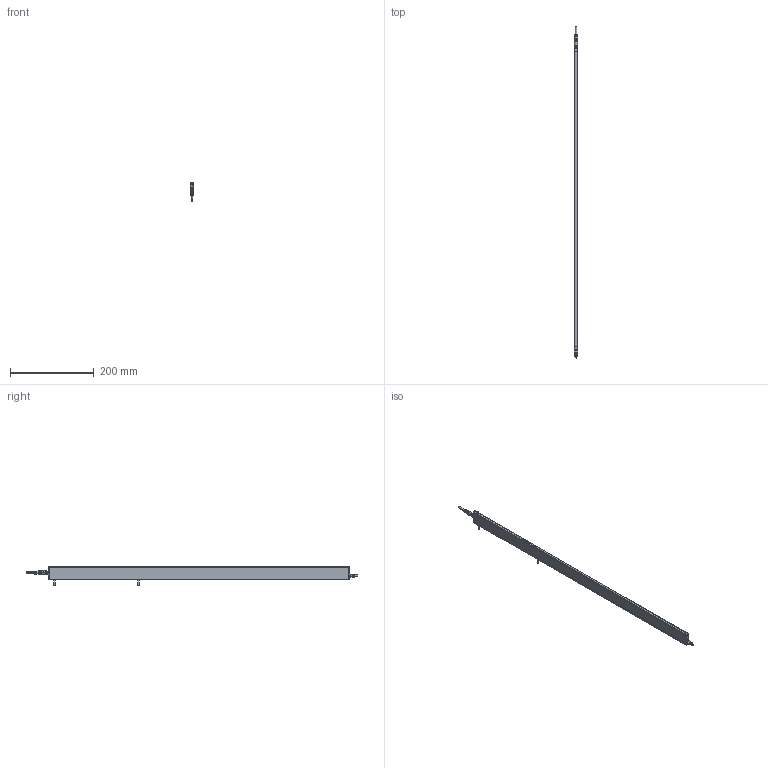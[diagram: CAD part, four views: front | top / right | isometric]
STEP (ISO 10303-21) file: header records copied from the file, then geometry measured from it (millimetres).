
FILE_DESCRIPTION (( 'STEP AP214' ), '1' );
FILE_NAME ('ILG-B-K2-0720mm.STEP', '2017-07-10T12:45:34', ( '' ), ( '' ), 'SwSTEP 2.0', 'SolidWorks 2016', '' );
FILE_SCHEMA (( 'AUTOMOTIVE_DESIGN' ));
Length unit declared in the file: millimetre
Products named in the file (1): ILG-B-K2-0720mm
Bounding box: 9 x 793.5 x 46.21 mm (x, y, z)
Surface area: 123736.3 mm2 (no closed solid volume)
Topology: 0 solids, 15 shells, 702 faces, 1822 edges, 1157 vertices
Faces by surface type: cylinder 287, plane 266, cone 99, bspline 32, torus 18
Entity records: 31388 total; most frequent: CARTESIAN_POINT 6631, ORIENTED_EDGE 3597, DIRECTION 3488, EDGE_CURVE 1806, AXIS2_PLACEMENT_3D 1342, VERTEX_POINT 1157, LINE 804, VECTOR 804
